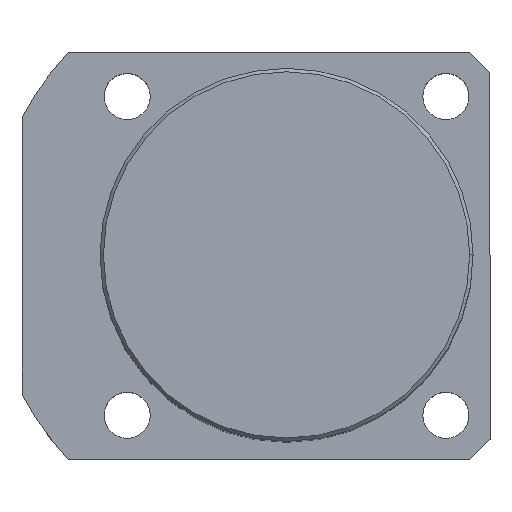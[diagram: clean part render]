
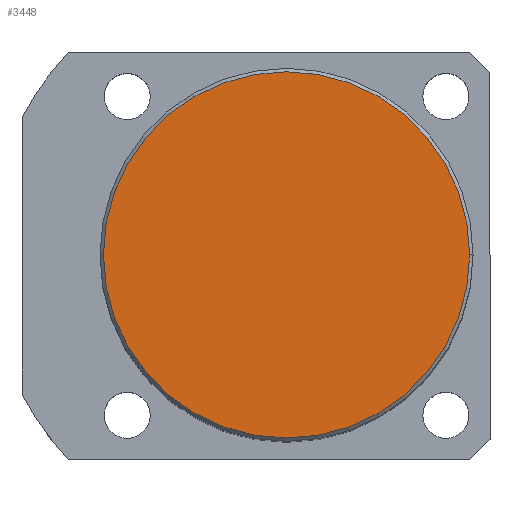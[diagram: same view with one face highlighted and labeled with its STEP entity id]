
A CAD part, top view. The second image highlights one B-rep face of the part: STEP entity #3448.
In plain terms, the highlighted planar face has unit normal (0, 0, 1).
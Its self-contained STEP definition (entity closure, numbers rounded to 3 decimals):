
#27 = CARTESIAN_POINT ( 'NONE',  ( 0., 0., 95. ) ) ;
#195 = CARTESIAN_POINT ( 'NONE',  ( 0., 0., 95. ) ) ;
#439 = DIRECTION ( 'NONE',  ( 0., 0., 1. ) ) ;
#581 = DIRECTION ( 'NONE',  ( 1., 0., 0. ) ) ;
#928 = EDGE_CURVE ( 'NONE', #2916, #4568, #1904, .T. ) ;
#956 = DIRECTION ( 'NONE',  ( 0., 0., 1. ) ) ;
#1252 = AXIS2_PLACEMENT_3D ( 'NONE', #3314, #956, #3721 ) ;
#1666 = CARTESIAN_POINT ( 'NONE',  ( 27., 0., 95. ) ) ;
#1904 = CIRCLE ( 'NONE', #2662, 27. ) ;
#2412 = ORIENTED_EDGE ( 'NONE', *, *, #4968, .T. ) ;
#2662 = AXIS2_PLACEMENT_3D ( 'NONE', #195, #2938, #581 ) ;
#2730 = CARTESIAN_POINT ( 'NONE',  ( -27., 0., 95. ) ) ;
#2787 = PLANE ( 'NONE',  #4460 ) ;
#2916 = VERTEX_POINT ( 'NONE', #2730 ) ;
#2938 = DIRECTION ( 'NONE',  ( 0., 0., 1. ) ) ;
#3058 = EDGE_LOOP ( 'NONE', ( #3603, #2412 ) ) ;
#3190 = DIRECTION ( 'NONE',  ( 1., 0., 0. ) ) ;
#3314 = CARTESIAN_POINT ( 'NONE',  ( 0., 0., 95. ) ) ;
#3448 = ADVANCED_FACE ( 'NONE', ( #4329 ), #2787, .T. ) ;
#3603 = ORIENTED_EDGE ( 'NONE', *, *, #928, .T. ) ;
#3721 = DIRECTION ( 'NONE',  ( 1., 0., 0. ) ) ;
#4052 = CIRCLE ( 'NONE', #1252, 27. ) ;
#4329 = FACE_OUTER_BOUND ( 'NONE', #3058, .T. ) ;
#4460 = AXIS2_PLACEMENT_3D ( 'NONE', #27, #439, #3190 ) ;
#4568 = VERTEX_POINT ( 'NONE', #1666 ) ;
#4968 = EDGE_CURVE ( 'NONE', #4568, #2916, #4052, .T. ) ;
